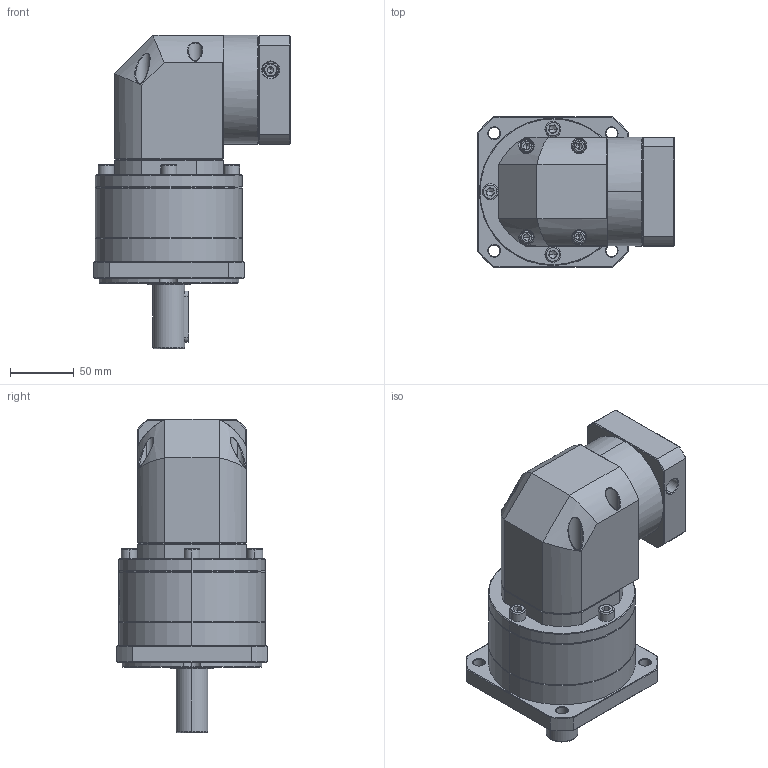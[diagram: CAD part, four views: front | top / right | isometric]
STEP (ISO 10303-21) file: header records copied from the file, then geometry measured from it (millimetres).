
FILE_DESCRIPTION (( 'STEP AP214' ), '1' );
FILE_NAME ('ZFR120A-D25-L2-P2-14-73-69.6X69.6-M6.step', '2023-08-27T09:15:55', ( '' ), ( '' ), 'SwSTEP 2.0', 'SolidWorks 2016', '' );
FILE_SCHEMA (( 'AUTOMOTIVE_DESIGN' ));
Length unit declared in the file: millimetre
Products named in the file (1): ZFR120A-D25-L2-P2-14-73-69.6X69.6-M6
Bounding box: 154.1 x 118 x 245 mm (x, y, z)
Volume: 1851994 mm3; surface area: 171045.4 mm2
Topology: 6 solids, 6 shells, 2393 faces, 6252 edges, 3965 vertices
Faces by surface type: plane 1155, cylinder 453, bspline 443, cone 328, torus 14
Entity records: 129601 total; most frequent: CARTESIAN_POINT 50216, ORIENTED_EDGE 12412, DIRECTION 9140, EDGE_CURVE 6206, VERTEX_POINT 3965, LINE 3338, VECTOR 3338, AXIS2_PLACEMENT_3D 2901
